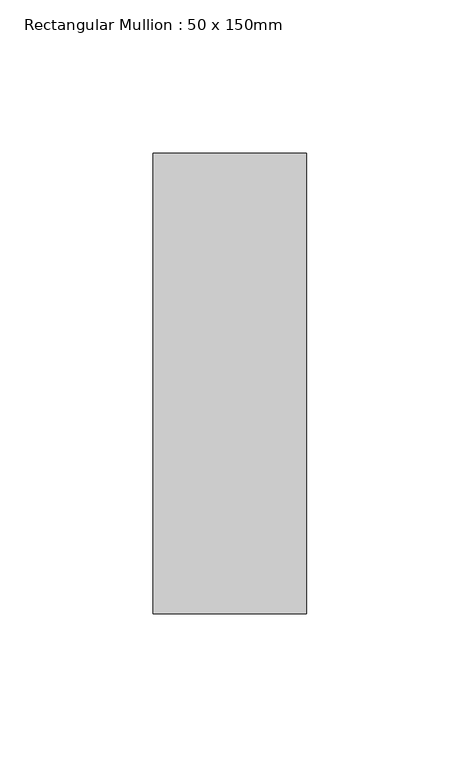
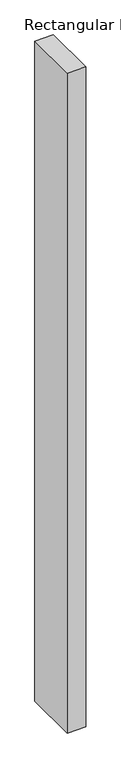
"""IFC4 building model written with IfcOpenShell, lengths in millimetres: member geometry, Rectangular Mullion : 50 x 150mm."""

import ifcopenshell
import ifcopenshell.guid

model = None  # the IFC model being written
_history = None  # IfcOwnerHistory: only IFC2X3 demands one
_inside = {}  # id of a spatial element -> (the spatial element, [elements in it])
_under = {}  # id of a project, library or spatial element -> (it, [spatial elements below it])
_declared = {}  # id of a project -> (the project, [libraries it declares])
_typed = {}  # id of a type object -> (the type object, [elements of that type])
_made_of = {}  # id of a material, layer set ... -> (it, [elements and type objects made of it])


def new_model(schema):
    """Start an empty IFC model of exactly this schema.

    Asked for "IFC4X3", IfcOpenShell would pick the latest addendum, in which some entities
    have other attributes; the version numbers below select the first issue.
    IFC2X3 requires an IfcOwnerHistory on every rooted entity: one is made here for all.
    """
    global model, _history
    if schema == "IFC4X3":
        model = ifcopenshell.file(schema_version=(4, 3, 0, 0))
    else:
        model = ifcopenshell.file(schema=schema)
    _inside.clear()
    _under.clear()
    _declared.clear()
    _typed.clear()
    _made_of.clear()
    _history = None
    if model.schema == "IFC2X3":
        org = make("IfcOrganization", Name="unknown")
        user = make(
            "IfcPersonAndOrganization",
            ThePerson=make("IfcPerson", FamilyName="unknown"),
            TheOrganization=org,
        )
        app = make(
            "IfcApplication",
            ApplicationDeveloper=org,
            Version="unknown",
            ApplicationFullName="unknown",
            ApplicationIdentifier="unknown",
        )
        _history = make(
            "IfcOwnerHistory",
            OwningUser=user,
            OwningApplication=app,
            ChangeAction="ADDED",
            CreationDate=0,
        )
    return model


def make(cls, **values):
    """One entity of the class cls with the attributes given. An attribute that is None is left unset."""
    return model.create_entity(
        cls, **{name: value for name, value in values.items() if value is not None}
    )


def rooted(cls, **values):
    """An entity with a GlobalId (a new one), such as an element, a storey or a relation."""
    return make(cls, GlobalId=ifcopenshell.guid.new(), OwnerHistory=_history, **values)


def si_unit(unit_type, name, prefix=None):
    """IfcSIUnit, for example si_unit("LENGTHUNIT", "METRE", prefix="MILLI")."""
    return make("IfcSIUnit", UnitType=unit_type, Prefix=prefix, Name=name)


def assignment(units):
    """IfcUnitAssignment: the units of a project."""
    return None if units is None else make("IfcUnitAssignment", Units=units)


def point(xyz):
    """IfcCartesianPoint."""
    return None if xyz is None else make("IfcCartesianPoint", Coordinates=xyz)


def direction(xyz):
    """IfcDirection."""
    return None if xyz is None else make("IfcDirection", DirectionRatios=xyz)


def frame(location, z_axis=None, x_axis=None):
    """IfcAxis2Placement3D, a coordinate frame: its origin and axes. An axis left out is left unset."""
    return make(
        "IfcAxis2Placement3D",
        Location=point(location),
        Axis=direction(z_axis),
        RefDirection=direction(x_axis),
    )


def origin():
    """The frame at (0, 0, 0) with its axes left unset."""
    return frame((0.0, 0.0, 0.0))


def place(relative_to, where):
    """IfcLocalPlacement: puts the frame where relative to a parent placement (None: the world)."""
    return make(
        "IfcLocalPlacement", PlacementRelTo=relative_to, RelativePlacement=where
    )


def context(
    kind, dimensions, precision=None, world=None, true_north=None, identifier=None
):
    """IfcGeometricRepresentationContext, for example the 3D "Model" context."""
    return make(
        "IfcGeometricRepresentationContext",
        ContextIdentifier=identifier,
        ContextType=kind,
        CoordinateSpaceDimension=dimensions,
        Precision=precision,
        WorldCoordinateSystem=world,
        TrueNorth=true_north,
    )


def project(units=None, contexts=None):
    """IfcProject with its units and contexts."""
    return rooted(
        "IfcProject",
        Name="project",
        RepresentationContexts=contexts,
        UnitsInContext=assignment(units),
    )


def spatial(cls, under=None, at=None, **own):
    """A site, building, storey or space (cls), placed at a placement, below another one or the project."""
    s = rooted(cls, ObjectPlacement=at, **own)
    if under is not None:
        _under.setdefault(under.id(), (under, []))[1].append(s)
    return s


def polyline(points):
    """IfcPolyline through the points."""
    return make("IfcPolyline", Points=[point(p) for p in points])


def outline(outer, holes=None, kind="AREA"):
    """IfcArbitraryClosedProfileDef: a profile drawn as a closed curve; with holes, ...WithVoids."""
    if holes is None:
        return make("IfcArbitraryClosedProfileDef", ProfileType=kind, OuterCurve=outer)
    return make(
        "IfcArbitraryProfileDefWithVoids",
        ProfileType=kind,
        OuterCurve=outer,
        InnerCurves=holes,
    )


def extrude(swept, where, along, depth):
    """IfcExtrudedAreaSolid: the profile swept, set in the frame where, extruded along a direction by depth."""
    return make(
        "IfcExtrudedAreaSolid",
        SweptArea=swept,
        Position=where,
        ExtrudedDirection=direction(along),
        Depth=depth,
    )


def shape(context_of_items, identifier, shape_type, items):
    """IfcShapeRepresentation: the items that make up one representation, for example the "Body"."""
    return make(
        "IfcShapeRepresentation",
        ContextOfItems=context_of_items,
        RepresentationIdentifier=identifier,
        RepresentationType=shape_type,
        Items=items,
    )


def source(mapping_origin, context_of_items, identifier, shape_type, items):
    """IfcRepresentationMap: a shape defined once, which mapped items show again and again."""
    return make(
        "IfcRepresentationMap",
        MappingOrigin=mapping_origin,
        MappedRepresentation=shape(context_of_items, identifier, shape_type, items),
    )


def transform(
    local_origin,
    x_axis=None,
    y_axis=None,
    z_axis=None,
    scale=None,
    scale2=None,
    scale3=None,
    uniform=True,
):
    """IfcCartesianTransformationOperator3D, or its non-uniform kind. x_axis, y_axis, z_axis: its Axis1, 2, 3."""
    if uniform:
        return make(
            "IfcCartesianTransformationOperator3D",
            Axis1=direction(x_axis),
            Axis2=direction(y_axis),
            LocalOrigin=point(local_origin),
            Scale=scale,
            Axis3=direction(z_axis),
        )
    return make(
        "IfcCartesianTransformationOperator3DnonUniform",
        Axis1=direction(x_axis),
        Axis2=direction(y_axis),
        LocalOrigin=point(local_origin),
        Scale=scale,
        Axis3=direction(z_axis),
        Scale2=scale2,
        Scale3=scale3,
    )


def mapped(mapping_source, mapping_target):
    """IfcMappedItem: shows the shape of a source again, moved by a transform."""
    return make(
        "IfcMappedItem", MappingSource=mapping_source, MappingTarget=mapping_target
    )


def made_of(thing, what):
    """Note that an element or type object is made of a material, layer set ...; save() writes the relation."""
    if what is not None:
        _made_of.setdefault(what.id(), (what, []))[1].append(thing)
    return thing


def element(
    cls,
    number,
    at=None,
    inside=None,
    cuts=None,
    type_object=None,
    material=None,
    context=None,
    identifier="Body",
    shape_type=None,
    held_by="IfcProductDefinitionShape",
    body=None,
    shapes=None,
    **own,
):
    """One element of the class cls, such as IfcWall. Its Tag is "e" and its number.

    at: its placement. inside: the storey or other place that contains it. cuts: it is an
    opening in that element (IfcRelVoidsElement). A single representation is given by context,
    identifier, shape_type and body (its items); several are given by shapes. held_by: the class
    of the entity that holds the representations. save() writes the other relations.
    """
    e = rooted(cls, Tag="e%d" % number, ObjectPlacement=at, **own)
    if body is not None:
        shapes = [shape(context, identifier, shape_type, body)]
    if shapes is not None:
        e.Representation = make(held_by, Representations=shapes)
    if inside is not None:
        _inside.setdefault(inside.id(), (inside, []))[1].append(e)
    if cuts is not None:
        rooted(
            "IfcRelVoidsElement", RelatingBuildingElement=cuts, RelatedOpeningElement=e
        )
    if type_object is not None:
        _typed.setdefault(type_object.id(), (type_object, []))[1].append(e)
    return made_of(e, material)


def aggregate(whole, parts):
    """IfcRelAggregates: a whole, such as a stair, and the parts it consists of."""
    return rooted("IfcRelAggregates", RelatingObject=whole, RelatedObjects=parts)


def save(model, path):
    """Write the relations noted so far, then the file.

    IfcRelAggregates (storeys below a building ...), IfcRelContainedInSpatialStructure (elements
    in a storey), IfcRelDefinesByType, IfcRelAssociatesMaterial and IfcRelDeclares: one each for
    every whole, place, type object, material and project.
    """
    for whole, parts in _under.values():
        aggregate(whole, parts)
    for where, things in _inside.values():
        rooted(
            "IfcRelContainedInSpatialStructure",
            RelatedElements=things,
            RelatingStructure=where,
        )
    for kind, things in _typed.values():
        rooted("IfcRelDefinesByType", RelatedObjects=things, RelatingType=kind)
    for what, things in _made_of.values():
        rooted("IfcRelAssociatesMaterial", RelatedObjects=things, RelatingMaterial=what)
    for by, libraries in _declared.values():
        rooted("IfcRelDeclares", RelatingContext=by, RelatedDefinitions=libraries)
    model.write(path)


def rectangular_mullion_50_x_150mm_a29c3796(model_context):
    return source(origin(), model_context, "Body", "SweptSolid", [
        extrude(outline(polyline([(0.0, 75.0), (0.0, -75.0), (-50.0, -75.0), (-50.0, 75.0), (0.0, 75.0)])), frame((0.0, 0.0, -1877.153105), z_axis=(0.0, 0.0, 1.0), x_axis=(1.0, 0.0, 0.0)), (0.0, 0.0, 1.0), 1877.153105),
    ])


if __name__ == "__main__":
    model = new_model("IFC4")
    model_context = context("Model", 3, world=origin())
    ifc_project = project(units=[si_unit("LENGTHUNIT", "METRE", prefix="MILLI")], contexts=[model_context])
    site = spatial("IfcSite", under=ifc_project)
    building = spatial("IfcBuilding", under=site)
    placement = place(None, origin())
    rectangular_mullion_50_x_150mm_shape = rectangular_mullion_50_x_150mm_a29c3796(model_context)
    element("IfcMember", 1, ObjectType="Rectangular Mullion : 50 x 150mm", at=placement, inside=building, context=model_context, shape_type="MappedRepresentation", body=[
        mapped(rectangular_mullion_50_x_150mm_shape, transform((0.0, 0.0, 0.0), x_axis=(1.0, 0.0, 0.0), y_axis=(0.0, 1.0, 0.0), z_axis=(0.0, 0.0, 1.0))),
    ])
    save(model, "model.ifc")
